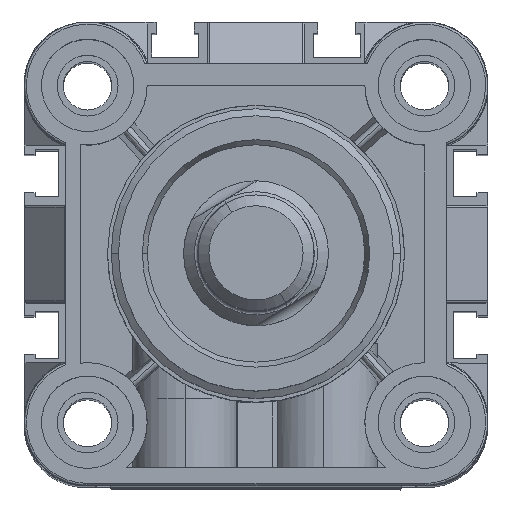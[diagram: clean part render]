
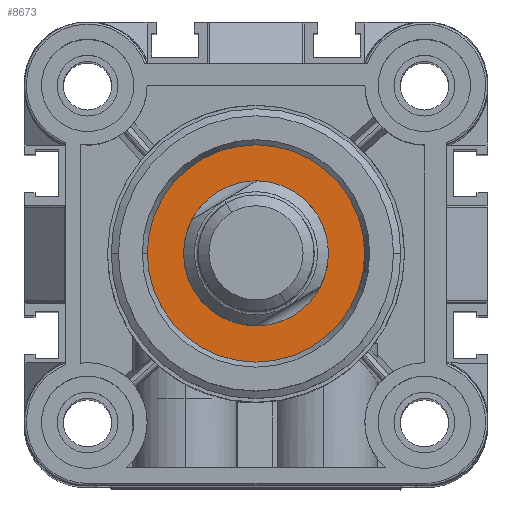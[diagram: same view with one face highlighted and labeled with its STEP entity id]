
A CAD part, top view. The second image highlights one B-rep face of the part: STEP entity #8673.
In plain terms, the highlighted planar face has unit normal (0, 0, 1) as drawn and (0, 0, -1) by its records, which use the part's own axes.
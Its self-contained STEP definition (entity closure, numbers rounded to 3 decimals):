
#487 = AXIS2_PLACEMENT_3D ( 'NONE', #16181, #17941, #7907 ) ;
#974 = DIRECTION ( 'NONE',  ( -1., 0., 0. ) ) ;
#2057 = EDGE_LOOP ( 'NONE', ( #17266, #20370 ) ) ;
#2349 = DIRECTION ( 'NONE',  ( 0., 0., -1. ) ) ;
#2425 = FACE_OUTER_BOUND ( 'NONE', #5490, .T. ) ;
#2468 = CIRCLE ( 'NONE', #12587, 15. ) ;
#3221 = CARTESIAN_POINT ( 'NONE',  ( 26.25, 11.25, -25.5 ) ) ;
#5393 = DIRECTION ( 'NONE',  ( 0., 0., -1. ) ) ;
#5490 = EDGE_LOOP ( 'NONE', ( #10121, #18207 ) ) ;
#5865 = FACE_BOUND ( 'NONE', #2057, .T. ) ;
#6600 = EDGE_CURVE ( 'NONE', #21249, #13390, #2468, .T. ) ;
#7907 = DIRECTION ( 'NONE',  ( -1., 0., 0. ) ) ;
#8074 = DIRECTION ( 'NONE',  ( 0., 0., -1. ) ) ;
#8673 = ADVANCED_FACE ( 'NONE', ( #5865, #2425 ), #21362, .T. ) ;
#9405 = CARTESIAN_POINT ( 'NONE',  ( 36.25, 26.25, -25.5 ) ) ;
#10121 = ORIENTED_EDGE ( 'NONE', *, *, #12734, .T. ) ;
#10602 = EDGE_CURVE ( 'NONE', #13119, #19992, #20466, .T. ) ;
#10818 = DIRECTION ( 'NONE',  ( 0., 0., -1. ) ) ;
#11128 = AXIS2_PLACEMENT_3D ( 'NONE', #12172, #2349, #13876 ) ;
#11673 = CARTESIAN_POINT ( 'NONE',  ( 26.25, 41.25, -25.5 ) ) ;
#12172 = CARTESIAN_POINT ( 'NONE',  ( 26.25, 26.25, -25.5 ) ) ;
#12587 = AXIS2_PLACEMENT_3D ( 'NONE', #18106, #8074, #19852 ) ;
#12734 = EDGE_CURVE ( 'NONE', #13390, #21249, #19051, .T. ) ;
#13119 = VERTEX_POINT ( 'NONE', #9405 ) ;
#13390 = VERTEX_POINT ( 'NONE', #11673 ) ;
#13876 = DIRECTION ( 'NONE',  ( -1., 0., 0. ) ) ;
#14121 = CIRCLE ( 'NONE', #11128, 10. ) ;
#15245 = CARTESIAN_POINT ( 'NONE',  ( 26.25, 26.25, -25.5 ) ) ;
#16181 = CARTESIAN_POINT ( 'NONE',  ( 41.43, 11.07, -25.5 ) ) ;
#16999 = DIRECTION ( 'NONE',  ( 0., 1., 0. ) ) ;
#17266 = ORIENTED_EDGE ( 'NONE', *, *, #19749, .F. ) ;
#17316 = AXIS2_PLACEMENT_3D ( 'NONE', #15245, #5393, #16999 ) ;
#17941 = DIRECTION ( 'NONE',  ( 0., 0., -1. ) ) ;
#18106 = CARTESIAN_POINT ( 'NONE',  ( 26.25, 26.25, -25.5 ) ) ;
#18207 = ORIENTED_EDGE ( 'NONE', *, *, #6600, .T. ) ;
#19051 = CIRCLE ( 'NONE', #17316, 15. ) ;
#19749 = EDGE_CURVE ( 'NONE', #19992, #13119, #14121, .T. ) ;
#19852 = DIRECTION ( 'NONE',  ( 0., 1., 0. ) ) ;
#19992 = VERTEX_POINT ( 'NONE', #21304 ) ;
#20370 = ORIENTED_EDGE ( 'NONE', *, *, #10602, .F. ) ;
#20466 = CIRCLE ( 'NONE', #20774, 10. ) ;
#20774 = AXIS2_PLACEMENT_3D ( 'NONE', #21090, #10818, #974 ) ;
#21090 = CARTESIAN_POINT ( 'NONE',  ( 26.25, 26.25, -25.5 ) ) ;
#21249 = VERTEX_POINT ( 'NONE', #3221 ) ;
#21304 = CARTESIAN_POINT ( 'NONE',  ( 16.25, 26.25, -25.5 ) ) ;
#21362 = PLANE ( 'NONE',  #487 ) ;
